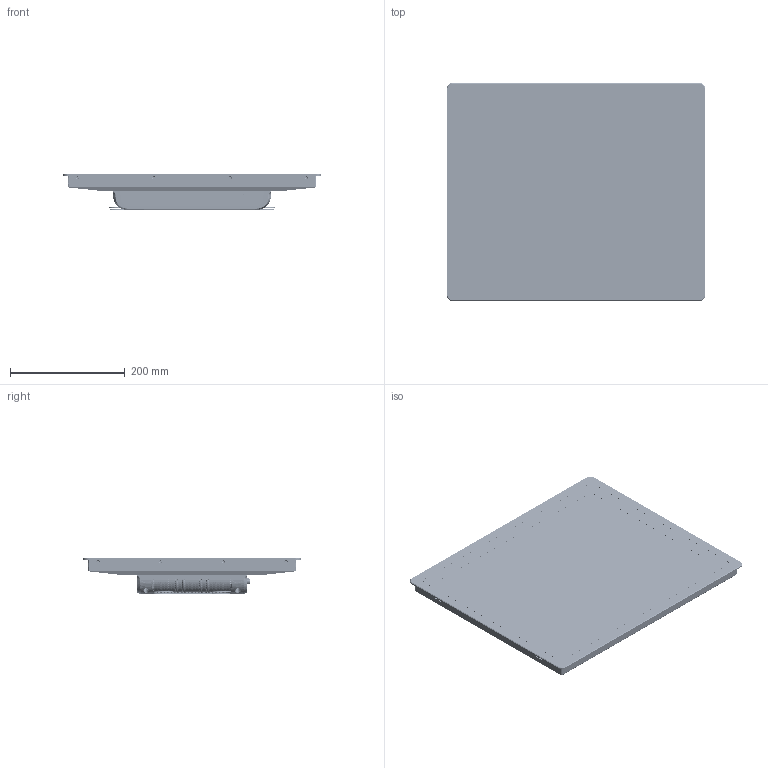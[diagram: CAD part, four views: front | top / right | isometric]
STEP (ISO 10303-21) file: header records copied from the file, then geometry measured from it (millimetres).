
FILE_DESCRIPTION((''),'2;1');
FILE_NAME('0-19INCHZHENG_2_GENERATIONS_ASM','2020-07-08T',('Administrator'),(''),'CREO PARAMETRIC BY PTC INC, 2015290','CREO PARAMETRIC BY PTC INC, 2015290','');
FILE_SCHEMA(('CONFIG_CONTROL_DESIGN'));
Products named in the file (1): 0-19INCHZHENG_2_GENERATIONS_ASM
Bounding box: 451 x 380 x 63.21 mm (x, y, z)
Surface area: 1445536.5 mm2 (no closed solid volume)
Topology: 0 solids, 0 shells, 3823 faces, 19941 edges, 19736 vertices
Faces by surface type: bspline 3645, torus 172, sphere 6
Entity records: 314940 total; most frequent: CARTESIAN_POINT 137848, DIRECTION 27570, TRIMMED_CURVE 24489, VECTOR 21764, LINE 21764, DEFINITIONAL_REPRESENTATION 19564, PCURVE 19564, COMPOSITE_CURVE_SEGMENT 19564
